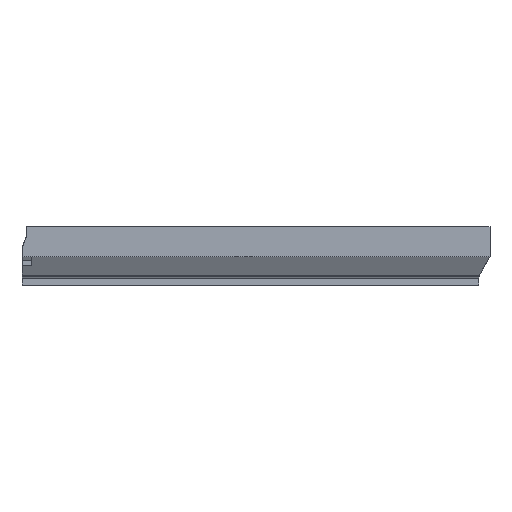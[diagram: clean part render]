
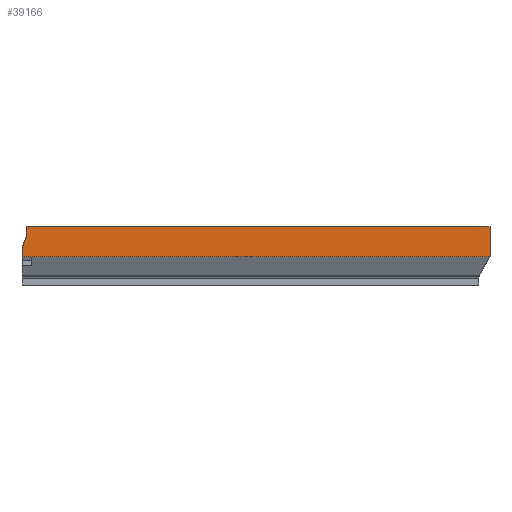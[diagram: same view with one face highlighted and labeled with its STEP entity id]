
A CAD part, front view. The second image highlights one B-rep face of the part: STEP entity #39166.
In plain terms, the highlighted planar face has unit normal (0, -1, 0).
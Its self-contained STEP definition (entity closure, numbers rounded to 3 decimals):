
#7398 = PLANE('',#7399);
#7399 = AXIS2_PLACEMENT_3D('',#7400,#7401,#7402);
#7400 = CARTESIAN_POINT('',(0.,-3.198,24.5));
#7401 = DIRECTION('',(0.,0.,1.));
#7402 = DIRECTION('',(1.,0.,-0.));
#21805 = VERTEX_POINT('',#21806);
#21806 = CARTESIAN_POINT('',(2.1,-180.5,24.5));
#21819 = PLANE('',#21820);
#21820 = AXIS2_PLACEMENT_3D('',#21821,#21822,#21823);
#21821 = CARTESIAN_POINT('',(2.1,-179.6,38.));
#21822 = DIRECTION('',(-1.,0.,0.));
#21823 = DIRECTION('',(0.,-1.,0.));
#21830 = EDGE_CURVE('',#21805,#21831,#21833,.T.);
#21831 = VERTEX_POINT('',#21832);
#21832 = CARTESIAN_POINT('',(196.5,-180.5,24.5));
#21833 = SURFACE_CURVE('',#21834,(#21838,#21845),.PCURVE_S1.);
#21834 = LINE('',#21835,#21836);
#21835 = CARTESIAN_POINT('',(-196.5,-180.5,24.5));
#21836 = VECTOR('',#21837,1.);
#21837 = DIRECTION('',(1.,0.,0.));
#21838 = PCURVE('',#7398,#21839);
#21839 = DEFINITIONAL_REPRESENTATION('',(#21840),#21844);
#21840 = LINE('',#21841,#21842);
#21841 = CARTESIAN_POINT('',(-196.5,-177.302));
#21842 = VECTOR('',#21843,1.);
#21843 = DIRECTION('',(1.,0.));
#21844 = ( GEOMETRIC_REPRESENTATION_CONTEXT(2) 
PARAMETRIC_REPRESENTATION_CONTEXT() REPRESENTATION_CONTEXT('2D SPACE',''
  ) );
#21845 = PCURVE('',#21846,#21851);
#21846 = PLANE('',#21847);
#21847 = AXIS2_PLACEMENT_3D('',#21848,#21849,#21850);
#21848 = CARTESIAN_POINT('',(-196.5,-180.5,12.));
#21849 = DIRECTION('',(0.,1.,0.));
#21850 = DIRECTION('',(1.,0.,0.));
#21851 = DEFINITIONAL_REPRESENTATION('',(#21852),#21856);
#21852 = LINE('',#21853,#21854);
#21853 = CARTESIAN_POINT('',(0.,-12.5));
#21854 = VECTOR('',#21855,1.);
#21855 = DIRECTION('',(1.,0.));
#21856 = ( GEOMETRIC_REPRESENTATION_CONTEXT(2) 
PARAMETRIC_REPRESENTATION_CONTEXT() REPRESENTATION_CONTEXT('2D SPACE',''
  ) );
#21874 = PLANE('',#21875);
#21875 = AXIS2_PLACEMENT_3D('',#21876,#21877,#21878);
#21876 = CARTESIAN_POINT('',(196.5,-180.5,12.));
#21877 = DIRECTION('',(-1.,0.,0.));
#21878 = DIRECTION('',(0.,1.,0.));
#22049 = B_SPLINE_SURFACE_WITH_KNOTS('',1,1,(
    (#22050,#22051)
    ,(#22052,#22053
    )),.UNSPECIFIED.,.F.,.F.,.F.,(2,2),(2,2),(0.,393.),(0.,1.),
  .PIECEWISE_BEZIER_KNOTS.);
#22050 = CARTESIAN_POINT('',(-192.,-176.,4.2));
#22051 = CARTESIAN_POINT('',(-196.5,-180.5,12.));
#22052 = CARTESIAN_POINT('',(192.,-176.,4.2));
#22053 = CARTESIAN_POINT('',(196.5,-180.5,12.));
#38538 = VERTEX_POINT('',#38539);
#38539 = CARTESIAN_POINT('',(196.5,-180.5,12.));
#38858 = PLANE('',#38859);
#38859 = AXIS2_PLACEMENT_3D('',#38860,#38861,#38862);
#38860 = CARTESIAN_POINT('',(0.1,-179.6,8.));
#38861 = DIRECTION('',(-1.,0.,0.));
#38862 = DIRECTION('',(0.,-1.,0.));
#38884 = PLANE('',#38885);
#38885 = AXIS2_PLACEMENT_3D('',#38886,#38887,#38888);
#38886 = CARTESIAN_POINT('',(2.1,-179.6,21.));
#38887 = DIRECTION('',(-0.94,0.,0.342));
#38888 = DIRECTION('',(0.,-1.,0.));
#39104 = EDGE_CURVE('',#38538,#21831,#39105,.T.);
#39105 = SURFACE_CURVE('',#39106,(#39110,#39117),.PCURVE_S1.);
#39106 = LINE('',#39107,#39108);
#39107 = CARTESIAN_POINT('',(196.5,-180.5,12.));
#39108 = VECTOR('',#39109,1.);
#39109 = DIRECTION('',(0.,0.,1.));
#39110 = PCURVE('',#21874,#39111);
#39111 = DEFINITIONAL_REPRESENTATION('',(#39112),#39116);
#39112 = LINE('',#39113,#39114);
#39113 = CARTESIAN_POINT('',(0.,0.));
#39114 = VECTOR('',#39115,1.);
#39115 = DIRECTION('',(0.,-1.));
#39116 = ( GEOMETRIC_REPRESENTATION_CONTEXT(2) 
PARAMETRIC_REPRESENTATION_CONTEXT() REPRESENTATION_CONTEXT('2D SPACE',''
  ) );
#39117 = PCURVE('',#21846,#39118);
#39118 = DEFINITIONAL_REPRESENTATION('',(#39119),#39123);
#39119 = LINE('',#39120,#39121);
#39120 = CARTESIAN_POINT('',(393.,0.));
#39121 = VECTOR('',#39122,1.);
#39122 = DIRECTION('',(0.,-1.));
#39123 = ( GEOMETRIC_REPRESENTATION_CONTEXT(2) 
PARAMETRIC_REPRESENTATION_CONTEXT() REPRESENTATION_CONTEXT('2D SPACE',''
  ) );
#39166 = ADVANCED_FACE('',(#39167),#21846,.F.);
#39167 = FACE_BOUND('',#39168,.F.);
#39168 = EDGE_LOOP('',(#39169,#39190,#39191,#39192,#39215,#39236));
#39169 = ORIENTED_EDGE('',*,*,#39170,.T.);
#39170 = EDGE_CURVE('',#39171,#21805,#39173,.T.);
#39171 = VERTEX_POINT('',#39172);
#39172 = CARTESIAN_POINT('',(2.1,-180.5,21.));
#39173 = SURFACE_CURVE('',#39174,(#39178,#39184),.PCURVE_S1.);
#39174 = LINE('',#39175,#39176);
#39175 = CARTESIAN_POINT('',(2.1,-180.5,25.));
#39176 = VECTOR('',#39177,1.);
#39177 = DIRECTION('',(0.,-0.,1.));
#39178 = PCURVE('',#21846,#39179);
#39179 = DEFINITIONAL_REPRESENTATION('',(#39180),#39183);
#39180 = B_SPLINE_CURVE_WITH_KNOTS('',1,(#39181,#39182),.UNSPECIFIED.,
  .F.,.F.,(2,2),(-4.,-0.5),.PIECEWISE_BEZIER_KNOTS.);
#39181 = CARTESIAN_POINT('',(198.6,-9.));
#39182 = CARTESIAN_POINT('',(198.6,-12.5));
#39183 = ( GEOMETRIC_REPRESENTATION_CONTEXT(2) 
PARAMETRIC_REPRESENTATION_CONTEXT() REPRESENTATION_CONTEXT('2D SPACE',''
  ) );
#39184 = PCURVE('',#21819,#39185);
#39185 = DEFINITIONAL_REPRESENTATION('',(#39186),#39189);
#39186 = B_SPLINE_CURVE_WITH_KNOTS('',1,(#39187,#39188),.UNSPECIFIED.,
  .F.,.F.,(2,2),(-4.,-0.5),.PIECEWISE_BEZIER_KNOTS.);
#39187 = CARTESIAN_POINT('',(0.9,-17.));
#39188 = CARTESIAN_POINT('',(0.9,-13.5));
#39189 = ( GEOMETRIC_REPRESENTATION_CONTEXT(2) 
PARAMETRIC_REPRESENTATION_CONTEXT() REPRESENTATION_CONTEXT('2D SPACE',''
  ) );
#39190 = ORIENTED_EDGE('',*,*,#21830,.T.);
#39191 = ORIENTED_EDGE('',*,*,#39104,.F.);
#39192 = ORIENTED_EDGE('',*,*,#39193,.F.);
#39193 = EDGE_CURVE('',#39194,#38538,#39196,.T.);
#39194 = VERTEX_POINT('',#39195);
#39195 = CARTESIAN_POINT('',(0.1,-180.5,12.));
#39196 = SURFACE_CURVE('',#39197,(#39201,#39208),.PCURVE_S1.);
#39197 = LINE('',#39198,#39199);
#39198 = CARTESIAN_POINT('',(-196.5,-180.5,12.));
#39199 = VECTOR('',#39200,1.);
#39200 = DIRECTION('',(1.,0.,0.));
#39201 = PCURVE('',#21846,#39202);
#39202 = DEFINITIONAL_REPRESENTATION('',(#39203),#39207);
#39203 = LINE('',#39204,#39205);
#39204 = CARTESIAN_POINT('',(0.,0.));
#39205 = VECTOR('',#39206,1.);
#39206 = DIRECTION('',(1.,0.));
#39207 = ( GEOMETRIC_REPRESENTATION_CONTEXT(2) 
PARAMETRIC_REPRESENTATION_CONTEXT() REPRESENTATION_CONTEXT('2D SPACE',''
  ) );
#39208 = PCURVE('',#22049,#39209);
#39209 = DEFINITIONAL_REPRESENTATION('',(#39210),#39214);
#39210 = LINE('',#39211,#39212);
#39211 = CARTESIAN_POINT('',(0.,1.));
#39212 = VECTOR('',#39213,1.);
#39213 = DIRECTION('',(1.,0.));
#39214 = ( GEOMETRIC_REPRESENTATION_CONTEXT(2) 
PARAMETRIC_REPRESENTATION_CONTEXT() REPRESENTATION_CONTEXT('2D SPACE',''
  ) );
#39215 = ORIENTED_EDGE('',*,*,#39216,.T.);
#39216 = EDGE_CURVE('',#39194,#39217,#39219,.T.);
#39217 = VERTEX_POINT('',#39218);
#39218 = CARTESIAN_POINT('',(0.1,-180.5,15.5));
#39219 = SURFACE_CURVE('',#39220,(#39224,#39230),.PCURVE_S1.);
#39220 = LINE('',#39221,#39222);
#39221 = CARTESIAN_POINT('',(0.1,-180.5,10.));
#39222 = VECTOR('',#39223,1.);
#39223 = DIRECTION('',(0.,-0.,1.));
#39224 = PCURVE('',#21846,#39225);
#39225 = DEFINITIONAL_REPRESENTATION('',(#39226),#39229);
#39226 = B_SPLINE_CURVE_WITH_KNOTS('',1,(#39227,#39228),.UNSPECIFIED.,
  .F.,.F.,(2,2),(2.,5.5),.PIECEWISE_BEZIER_KNOTS.);
#39227 = CARTESIAN_POINT('',(196.6,0.));
#39228 = CARTESIAN_POINT('',(196.6,-3.5));
#39229 = ( GEOMETRIC_REPRESENTATION_CONTEXT(2) 
PARAMETRIC_REPRESENTATION_CONTEXT() REPRESENTATION_CONTEXT('2D SPACE',''
  ) );
#39230 = PCURVE('',#38858,#39231);
#39231 = DEFINITIONAL_REPRESENTATION('',(#39232),#39235);
#39232 = B_SPLINE_CURVE_WITH_KNOTS('',1,(#39233,#39234),.UNSPECIFIED.,
  .F.,.F.,(2,2),(2.,5.5),.PIECEWISE_BEZIER_KNOTS.);
#39233 = CARTESIAN_POINT('',(0.9,4.));
#39234 = CARTESIAN_POINT('',(0.9,7.5));
#39235 = ( GEOMETRIC_REPRESENTATION_CONTEXT(2) 
PARAMETRIC_REPRESENTATION_CONTEXT() REPRESENTATION_CONTEXT('2D SPACE',''
  ) );
#39236 = ORIENTED_EDGE('',*,*,#39237,.T.);
#39237 = EDGE_CURVE('',#39217,#39171,#39238,.T.);
#39238 = SURFACE_CURVE('',#39239,(#39243,#39249),.PCURVE_S1.);
#39239 = LINE('',#39240,#39241);
#39240 = CARTESIAN_POINT('',(-10.942,-180.5,-14.866));
#39241 = VECTOR('',#39242,1.);
#39242 = DIRECTION('',(0.342,-0.,0.94));
#39243 = PCURVE('',#21846,#39244);
#39244 = DEFINITIONAL_REPRESENTATION('',(#39245),#39248);
#39245 = B_SPLINE_CURVE_WITH_KNOTS('',1,(#39246,#39247),.UNSPECIFIED.,
  .F.,.F.,(2,2),(32.312,38.164),
  .PIECEWISE_BEZIER_KNOTS.);
#39246 = CARTESIAN_POINT('',(196.6,-3.5));
#39247 = CARTESIAN_POINT('',(198.6,-9.));
#39248 = ( GEOMETRIC_REPRESENTATION_CONTEXT(2) 
PARAMETRIC_REPRESENTATION_CONTEXT() REPRESENTATION_CONTEXT('2D SPACE',''
  ) );
#39249 = PCURVE('',#38884,#39250);
#39250 = DEFINITIONAL_REPRESENTATION('',(#39251),#39254);
#39251 = B_SPLINE_CURVE_WITH_KNOTS('',1,(#39252,#39253),.UNSPECIFIED.,
  .F.,.F.,(2,2),(32.312,38.164),
  .PIECEWISE_BEZIER_KNOTS.);
#39252 = CARTESIAN_POINT('',(0.9,-5.852));
#39253 = CARTESIAN_POINT('',(0.9,0.));
#39254 = ( GEOMETRIC_REPRESENTATION_CONTEXT(2) 
PARAMETRIC_REPRESENTATION_CONTEXT() REPRESENTATION_CONTEXT('2D SPACE',''
  ) );
